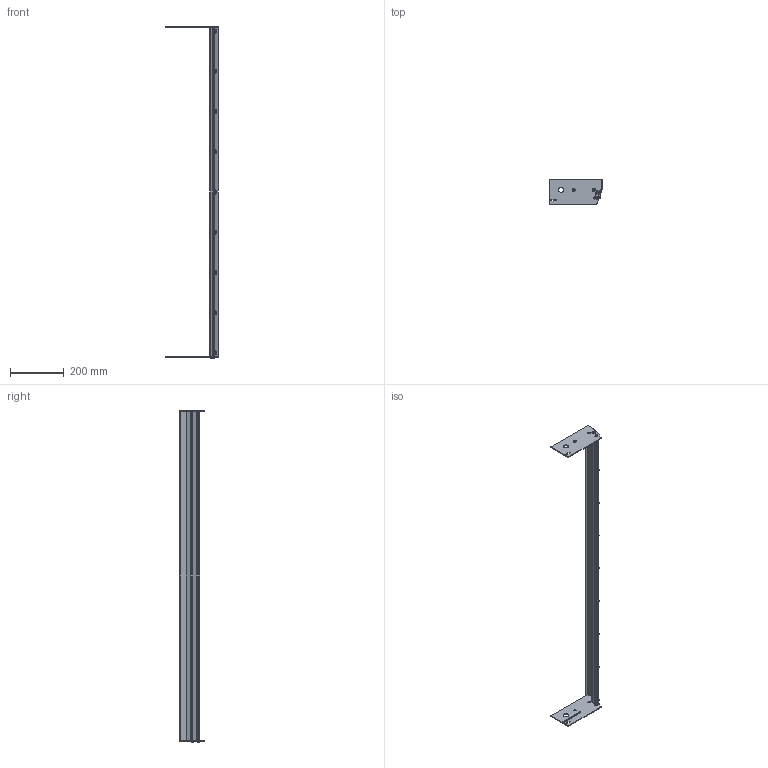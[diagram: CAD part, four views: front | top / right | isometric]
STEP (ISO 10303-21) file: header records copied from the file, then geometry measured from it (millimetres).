
FILE_DESCRIPTION((''),'2;1');
FILE_NAME('351199-48_ASM','2023-03-15T',('jenni.wallner'),(''),'PRO/ENGINEER BY PARAMETRIC TECHNOLOGY CORPORATION, 2012420','PRO/ENGINEER BY PARAMETRIC TECHNOLOGY CORPORATION, 2012420','');
FILE_SCHEMA(('CONFIG_CONTROL_DESIGN'));
Length unit declared in the file: inch
Products named in the file (10): 990603M; 605279P; 9506XXM_950612M; 9505XXM_950512M; 351202-WW_351202-48; 351201; 351203-WW_351203-48; 351200_DEFAULT_AS_MACHINED_; ASM0001_ASM; 351199-48_ASM
Assembly tree (36 placements, depth 3):
  351199-48_ASM
    ASM0001_ASM
      990603M  x9
      605279P  x9
      9506XXM_950612M  x9
      9505XXM_950512M  x4
      351202-WW_351202-48
      351201
      351203-WW_351203-48
      351200_DEFAULT_AS_MACHINED_
Bounding box: 196.11 x 93.08 x 1238.29 mm (x, y, z)
Volume: 595463.8 mm3; surface area: 490161.6 mm2
Topology: 35 solids, 35 shells, 624 faces, 1460 edges, 932 vertices
Faces by surface type: plane 290, cylinder 210, cone 124
Entity records: 9088 total; most frequent: DIRECTION 1665, CARTESIAN_POINT 1639, ORIENTED_EDGE 1410, EDGE_CURVE 705, AXIS2_PLACEMENT_3D 634, VERTEX_POINT 464, VECTOR 397, LINE 397
